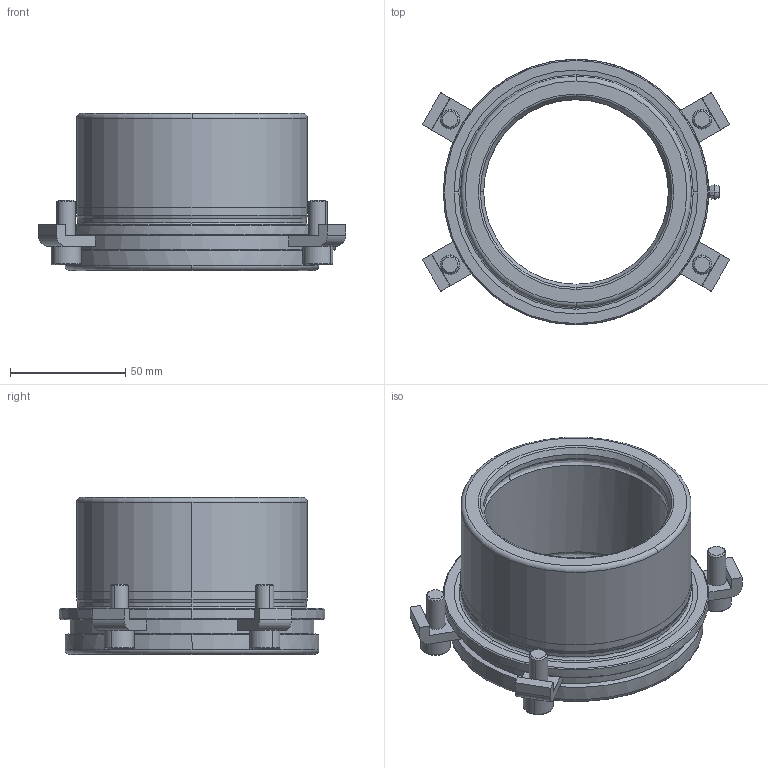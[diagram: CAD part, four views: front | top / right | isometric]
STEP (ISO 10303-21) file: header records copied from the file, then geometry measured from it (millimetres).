
FILE_DESCRIPTION((''),'2;1');
FILE_NAME('B10_080_020.stp','2008-11-06T09:17:19',(''),(''),'Mechanical Desktop 2009','Mechanical Desktop 2009',', , ');
FILE_SCHEMA(('CONFIG_CONTROL_DESIGN'));
Length unit declared in the file: millimetre
Products named in the file (2): Product; blmdl1
Assembly tree (1 placements, depth 2):
  Product
    blmdl1
Bounding box: 133.18 x 115 x 68 mm (x, y, z)
Volume: 234223.4 mm3; surface area: 59762.3 mm2
Topology: 10 solids, 10 shells, 202 faces, 510 edges, 337 vertices
Faces by surface type: plane 83, cylinder 61, cone 22, bspline 18, torus 18
Entity records: 7446 total; most frequent: CARTESIAN_POINT 2346, DIRECTION 1110, ORIENTED_EDGE 1012, EDGE_CURVE 506, AXIS2_PLACEMENT_3D 442, VERTEX_POINT 335, CIRCLE 256, VECTOR 226
